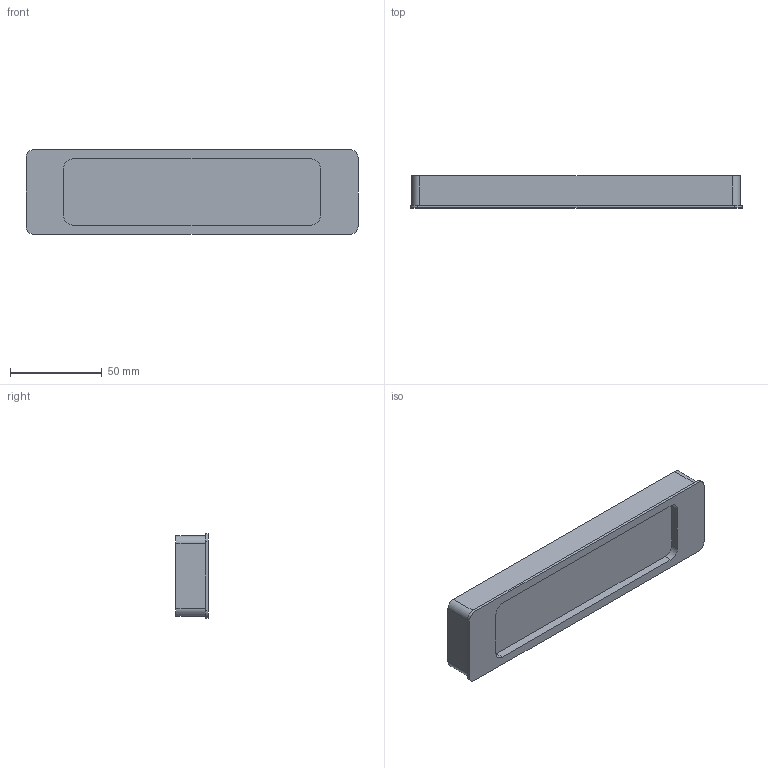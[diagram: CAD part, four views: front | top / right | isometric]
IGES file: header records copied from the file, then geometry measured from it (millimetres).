
Start section: Data from Parasolid IGES Translator 17.0.49, Copyright(c) 2006 Siemens P LM Software. All Rights Reserved.
Global section: file name: 9086692.igs; native system: By Siemens PLM Incorporated; preprocessor: XPlus GENERIC/IGES 17.0.49; author: Noname; organization: Noname; date: 20190218.132908; units: millimetre
Bounding box: 181 x 17.5 x 46 mm (x, y, z)
Surface area: 26107 mm2 (no closed solid volume)
Topology: 0 solids, 0 shells, 32 faces, 156 edges, 154 vertices
Faces by surface type: extrusion 18, revolution 14
